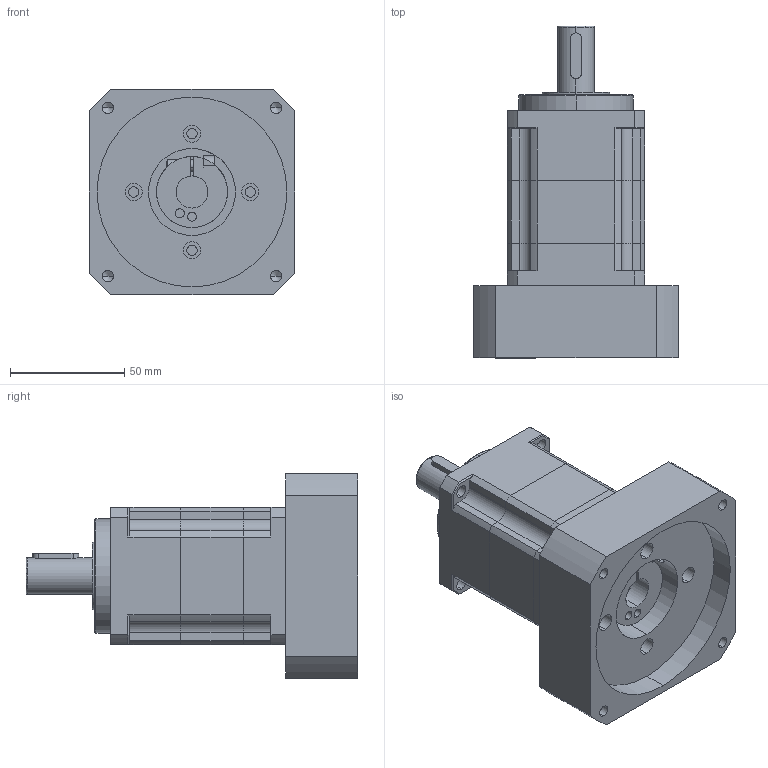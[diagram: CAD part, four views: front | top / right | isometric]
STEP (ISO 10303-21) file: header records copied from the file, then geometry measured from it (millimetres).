
FILE_DESCRIPTION (( 'STEP AP203' ), '1' );
FILE_NAME ('PAG060-L2-14-83-104.STEP', '2024-04-17T03:44:56', ( 'Windows User' ), ( 'P R C' ), 'SwSTEP 2.0', 'SolidWorks 2016', '' );
FILE_SCHEMA (( 'CONFIG_CONTROL_DESIGN' ));
Length unit declared in the file: millimetre
Products named in the file (7): PAG60俋倛芞奻裔啣_72T; PAG60外形图下盖板-分体-14; 邧埴瑩 5x5x20; PAG60外形图二级齿圈_72T; 囀鞠褒蹟佪-M5℅16; PAG60-LJ 83-M6-104-LR42; PAG060-L2-14-83-104
Assembly tree (6 placements, depth 2):
  PAG060-L2-14-83-104
    PAG60俋倛芞奻裔啣_72T
    PAG60外形图下盖板-分体-14
    邧埴瑩 5x5x20
    PAG60外形图二级齿圈_72T
    囀鞠褒蹟佪-M5℅16
    PAG60-LJ 83-M6-104-LR42
Bounding box: 90 x 145 x 90 mm (x, y, z)
Volume: 437382.7 mm3; surface area: 80482.5 mm2
Topology: 6 solids, 6 shells, 310 faces, 789 edges, 507 vertices
Faces by surface type: cylinder 156, plane 119, cone 27, bspline 8
Entity records: 10491 total; most frequent: CARTESIAN_POINT 2063, DIRECTION 1700, ORIENTED_EDGE 1542, EDGE_CURVE 771, AXIS2_PLACEMENT_3D 654, VERTEX_POINT 507, LINE 392, VECTOR 392
